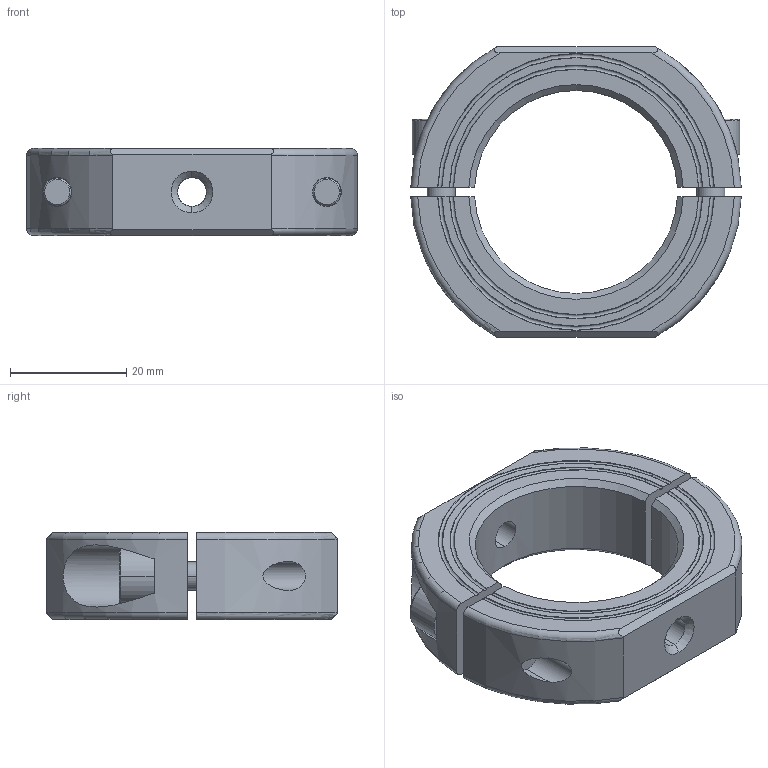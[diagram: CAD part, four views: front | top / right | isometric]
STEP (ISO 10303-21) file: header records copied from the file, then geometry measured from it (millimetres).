
FILE_DESCRIPTION (( 'STEP AP214' ), '1' );
FILE_NAME ('Ruland_OF-MSP-35-F.step', '2018-02-08T04:27:27', ( '' ), ( '' ), 'SwSTEP 2.0', 'SolidWorks 2018', '' );
FILE_SCHEMA (( 'AUTOMOTIVE_DESIGN' ));
Length unit declared in the file: millimetre
Products named in the file (3): Metric Socket Head Cap Screws 1_CFM6_18.step; Ruland_OF-MSP-35-F; OX-MSP-XX-XX-D_OF-MSP-35-F-D.step
Assembly tree (3 placements, depth 2):
  Ruland_OF-MSP-35-F
    OX-MSP-XX-XX-D_OF-MSP-35-F-D.step
    Metric Socket Head Cap Screws 1_CFM6_18.step  x2
Bounding box: 56.98 x 50 x 15 mm (x, y, z)
Volume: 19630.7 mm3; surface area: 9830.8 mm2
Topology: 4 solids, 4 shells, 108 faces, 270 edges, 176 vertices
Faces by surface type: plane 40, cylinder 32, cone 24, torus 12
Entity records: 3918 total; most frequent: CARTESIAN_POINT 1549, ORIENTED_EDGE 464, DIRECTION 432, EDGE_CURVE 232, AXIS2_PLACEMENT_3D 174, VERTEX_POINT 152, EDGE_LOOP 106, ADVANCED_FACE 90
